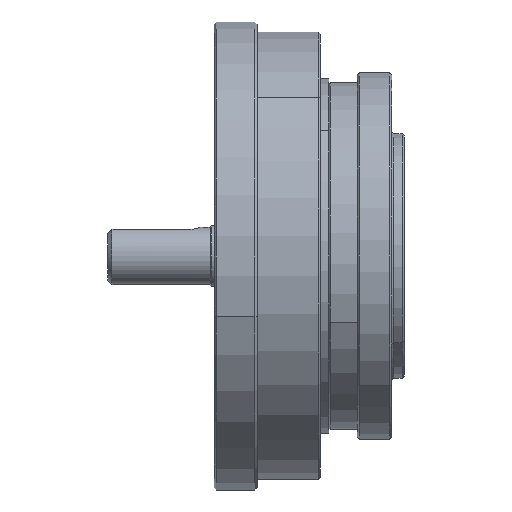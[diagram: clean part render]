
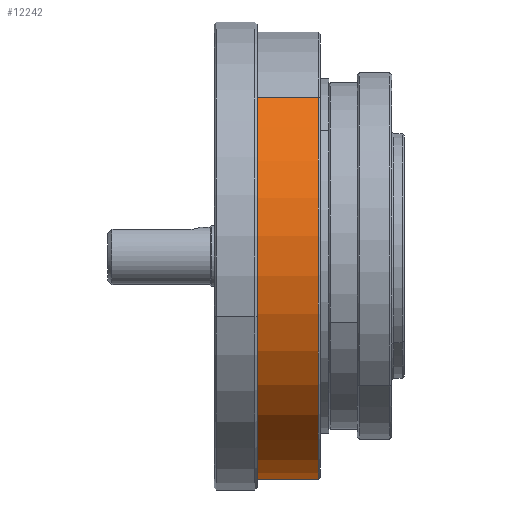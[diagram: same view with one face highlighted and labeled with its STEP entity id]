
A CAD part, front view. The second image highlights one B-rep face of the part: STEP entity #12242.
In plain terms, the highlighted cylindrical face has radius 55 mm (diameter 110 mm), a partial arc.
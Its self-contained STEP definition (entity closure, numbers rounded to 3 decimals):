
#522 = VERTEX_POINT ( 'NONE', #12244 ) ;
#625 = CARTESIAN_POINT ( 'NONE',  ( -94.014, 38.891, -38.891 ) ) ;
#1453 = VECTOR ( 'NONE', #19156, 1000. ) ;
#2007 = LINE ( 'NONE', #20841, #1453 ) ;
#2380 = DIRECTION ( 'NONE',  ( -1., 0., 0. ) ) ;
#2725 = ORIENTED_EDGE ( 'NONE', *, *, #11062, .T. ) ;
#2777 = FACE_OUTER_BOUND ( 'NONE', #22483, .T. ) ;
#5232 = CARTESIAN_POINT ( 'NONE',  ( -37.2, 0., 0. ) ) ;
#5427 = VECTOR ( 'NONE', #2380, 1000. ) ;
#6393 = AXIS2_PLACEMENT_3D ( 'NONE', #5232, #17518, #7008 ) ;
#6989 = CARTESIAN_POINT ( 'NONE',  ( -19.5, 0., 0. ) ) ;
#7008 = DIRECTION ( 'NONE',  ( 0., -0.707, 0.707 ) ) ;
#7447 = DIRECTION ( 'NONE',  ( -1., 0., 0. ) ) ;
#7676 = CIRCLE ( 'NONE', #20789, 55. ) ;
#7916 = CARTESIAN_POINT ( 'NONE',  ( -37.2, 38.891, -38.891 ) ) ;
#8081 = CIRCLE ( 'NONE', #6393, 55. ) ;
#8151 = EDGE_CURVE ( 'NONE', #522, #11362, #2007, .T. ) ;
#8767 = DIRECTION ( 'NONE',  ( 0., 0.707, -0.707 ) ) ;
#8852 = VERTEX_POINT ( 'NONE', #7916 ) ;
#9894 = EDGE_CURVE ( 'NONE', #13252, #522, #7676, .T. ) ;
#11011 = DIRECTION ( 'NONE',  ( 0., 0.707, -0.707 ) ) ;
#11062 = EDGE_CURVE ( 'NONE', #11362, #8852, #8081, .T. ) ;
#11362 = VERTEX_POINT ( 'NONE', #18371 ) ;
#12242 = ADVANCED_FACE ( 'NONE', ( #2777 ), #16255, .T. ) ;
#12244 = CARTESIAN_POINT ( 'NONE',  ( -19.5, -38.891, 38.891 ) ) ;
#13252 = VERTEX_POINT ( 'NONE', #18034 ) ;
#13611 = AXIS2_PLACEMENT_3D ( 'NONE', #21482, #7447, #11011 ) ;
#15879 = ORIENTED_EDGE ( 'NONE', *, *, #18164, .F. ) ;
#16255 = CYLINDRICAL_SURFACE ( 'NONE', #13611, 55. ) ;
#17518 = DIRECTION ( 'NONE',  ( 1., 0., 0. ) ) ;
#18034 = CARTESIAN_POINT ( 'NONE',  ( -19.5, 38.891, -38.891 ) ) ;
#18164 = EDGE_CURVE ( 'NONE', #13252, #8852, #19452, .T. ) ;
#18371 = CARTESIAN_POINT ( 'NONE',  ( -37.2, -38.891, 38.891 ) ) ;
#19156 = DIRECTION ( 'NONE',  ( -1., 0., 0. ) ) ;
#19272 = DIRECTION ( 'NONE',  ( -1., 0., 0. ) ) ;
#19452 = LINE ( 'NONE', #625, #5427 ) ;
#19943 = ORIENTED_EDGE ( 'NONE', *, *, #9894, .T. ) ;
#20789 = AXIS2_PLACEMENT_3D ( 'NONE', #6989, #19272, #8767 ) ;
#20841 = CARTESIAN_POINT ( 'NONE',  ( -94.014, -38.891, 38.891 ) ) ;
#21268 = ORIENTED_EDGE ( 'NONE', *, *, #8151, .T. ) ;
#21482 = CARTESIAN_POINT ( 'NONE',  ( -94.014, 0., 0. ) ) ;
#22483 = EDGE_LOOP ( 'NONE', ( #19943, #21268, #2725, #15879 ) ) ;
